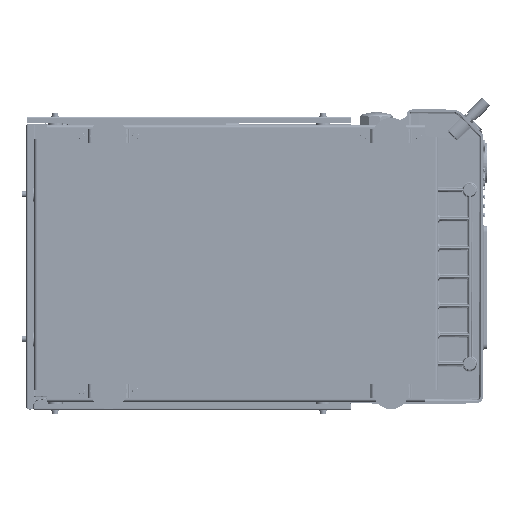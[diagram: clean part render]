
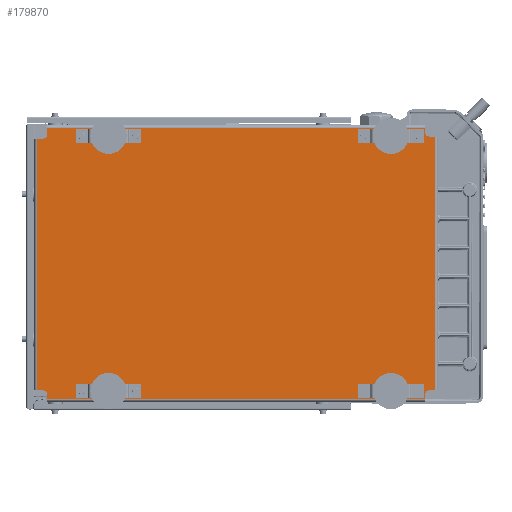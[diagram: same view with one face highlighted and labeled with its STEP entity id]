
A CAD part, front view. The second image highlights one B-rep face of the part: STEP entity #179870.
In plain terms, the highlighted planar face has unit normal (0, -1, 0).
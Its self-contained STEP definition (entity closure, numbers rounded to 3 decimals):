
#175242=DIRECTION('',(0.,0.,1.));
#175243=VECTOR('',#175242,14.);
#175244=CARTESIAN_POINT('',(343.,-70.,427.5));
#175245=LINE('',#175244,#175243);
#175304=DIRECTION('',(0.,0.,1.));
#175305=VECTOR('',#175304,14.);
#175306=CARTESIAN_POINT('',(343.,-70.,-307.5));
#175307=LINE('',#175306,#175305);
#175382=DIRECTION('',(0.,0.,1.));
#175383=VECTOR('',#175382,14.);
#175384=CARTESIAN_POINT('',(-702.,-70.,-307.5));
#175385=LINE('',#175384,#175383);
#175444=DIRECTION('',(0.,0.,1.));
#175445=VECTOR('',#175444,20.);
#175446=CARTESIAN_POINT('',(-702.,-70.,421.5));
#175447=LINE('',#175446,#175445);
#175517=DIRECTION('',(-1.,0.,0.));
#175518=VECTOR('',#175517,1045.);
#175519=CARTESIAN_POINT('',(343.,-70.,-307.5));
#175520=LINE('',#175519,#175518);
#175521=DIRECTION('',(0.,0.,1.));
#175522=VECTOR('',#175521,695.);
#175523=CARTESIAN_POINT('',(-729.,-70.,-283.5));
#175524=LINE('',#175523,#175522);
#175525=DIRECTION('',(-1.,0.,0.));
#175526=VECTOR('',#175525,1045.);
#175527=CARTESIAN_POINT('',(343.,-70.,441.5));
#175528=LINE('',#175527,#175526);
#175672=DIRECTION('',(1.,0.,0.));
#175673=VECTOR('',#175672,17.);
#175674=CARTESIAN_POINT('',(-729.,-70.,-283.5));
#175675=LINE('',#175674,#175673);
#175714=DIRECTION('',(1.,0.,0.));
#175715=VECTOR('',#175714,17.);
#175716=CARTESIAN_POINT('',(-729.,-70.,411.5));
#175717=LINE('',#175716,#175715);
#175796=DIRECTION('',(1.,0.,0.));
#175797=VECTOR('',#175796,17.);
#175798=CARTESIAN_POINT('',(353.,-70.,-283.5));
#175799=LINE('',#175798,#175797);
#175822=DIRECTION('',(1.,0.,0.));
#175823=VECTOR('',#175822,17.);
#175824=CARTESIAN_POINT('',(353.,-70.,417.5));
#175825=LINE('',#175824,#175823);
#175843=DIRECTION('',(0.,0.,1.));
#175844=VECTOR('',#175843,701.);
#175845=CARTESIAN_POINT('',(370.,-70.,-283.5));
#175846=LINE('',#175845,#175844);
#175891=CARTESIAN_POINT('',(-712.,-70.,421.5));
#175892=DIRECTION('',(0.,1.,0.));
#175893=DIRECTION('',(1.,0.,0.));
#175894=AXIS2_PLACEMENT_3D('',#175891,#175892,#175893);
#175906=CARTESIAN_POINT('',(-712.,-70.,-293.5));
#175907=DIRECTION('',(0.,1.,0.));
#175908=DIRECTION('',(0.,0.,1.));
#175909=AXIS2_PLACEMENT_3D('',#175906,#175907,#175908);
#175911=CARTESIAN_POINT('',(353.,-70.,-293.5));
#175912=DIRECTION('',(0.,1.,0.));
#175913=DIRECTION('',(-1.,0.,0.));
#175914=AXIS2_PLACEMENT_3D('',#175911,#175912,#175913);
#175926=CARTESIAN_POINT('',(353.,-70.,427.5));
#175927=DIRECTION('',(0.,1.,0.));
#175928=DIRECTION('',(0.,0.,-1.));
#175929=AXIS2_PLACEMENT_3D('',#175926,#175927,#175928);
#178693=CARTESIAN_POINT('',(343.,-70.,-307.5));
#178694=VERTEX_POINT('',#178693);
#178695=CARTESIAN_POINT('',(343.,-70.,441.5));
#178697=VERTEX_POINT('',#178695);
#178741=CARTESIAN_POINT('',(-702.,-70.,-307.5));
#178742=VERTEX_POINT('',#178741);
#178743=CARTESIAN_POINT('',(-702.,-70.,441.5));
#178745=VERTEX_POINT('',#178743);
#178780=CARTESIAN_POINT('',(-729.,-70.,-283.5));
#178782=VERTEX_POINT('',#178780);
#178788=CARTESIAN_POINT('',(-729.,-70.,411.5));
#178790=VERTEX_POINT('',#178788);
#178795=CARTESIAN_POINT('',(370.,-70.,-283.5));
#178797=VERTEX_POINT('',#178795);
#178803=CARTESIAN_POINT('',(370.,-70.,417.5));
#178805=VERTEX_POINT('',#178803);
#178812=CARTESIAN_POINT('',(343.,-70.,427.5));
#178814=VERTEX_POINT('',#178812);
#178816=CARTESIAN_POINT('',(353.,-70.,417.5));
#178818=VERTEX_POINT('',#178816);
#178819=CARTESIAN_POINT('',(343.,-70.,-293.5));
#178821=VERTEX_POINT('',#178819);
#178823=CARTESIAN_POINT('',(353.,-70.,-283.5));
#178825=VERTEX_POINT('',#178823);
#178828=CARTESIAN_POINT('',(-702.,-70.,-293.5));
#178830=VERTEX_POINT('',#178828);
#178832=CARTESIAN_POINT('',(-712.,-70.,-283.5));
#178834=VERTEX_POINT('',#178832);
#178835=CARTESIAN_POINT('',(-702.,-70.,421.5));
#178837=VERTEX_POINT('',#178835);
#178839=CARTESIAN_POINT('',(-712.,-70.,411.5));
#178841=VERTEX_POINT('',#178839);
#179836=CARTESIAN_POINT('',(343.,-70.,-307.5));
#179837=DIRECTION('',(0.,-1.,0.));
#179838=DIRECTION('',(0.,0.,1.));
#179839=AXIS2_PLACEMENT_3D('',#179836,#179837,#179838);
#179840=PLANE('',#179839);
#179842=ORIENTED_EDGE('',*,*,#179841,.F.);
#179844=ORIENTED_EDGE('',*,*,#179843,.F.);
#179845=ORIENTED_EDGE('',*,*,#179589,.F.);
#179846=ORIENTED_EDGE('',*,*,#179824,.T.);
#179847=ORIENTED_EDGE('',*,*,#179640,.T.);
#179849=ORIENTED_EDGE('',*,*,#179848,.F.);
#179851=ORIENTED_EDGE('',*,*,#179850,.F.);
#179853=ORIENTED_EDGE('',*,*,#179852,.T.);
#179855=ORIENTED_EDGE('',*,*,#179854,.T.);
#179857=ORIENTED_EDGE('',*,*,#179856,.F.);
#179858=ORIENTED_EDGE('',*,*,#179683,.T.);
#179860=ORIENTED_EDGE('',*,*,#179859,.F.);
#179861=ORIENTED_EDGE('',*,*,#179546,.F.);
#179863=ORIENTED_EDGE('',*,*,#179862,.F.);
#179865=ORIENTED_EDGE('',*,*,#179864,.T.);
#179867=ORIENTED_EDGE('',*,*,#179866,.F.);
#179868=EDGE_LOOP('',(#179842,#179844,#179845,#179846,#179847,#179849,#179851,
#179853,#179855,#179857,#179858,#179860,#179861,#179863,#179865,#179867));
#179869=FACE_OUTER_BOUND('',#179868,.F.);
#175895=CIRCLE('',#175894,10.);
#175910=CIRCLE('',#175909,10.);
#175915=CIRCLE('',#175914,10.);
#175930=CIRCLE('',#175929,10.);
#179546=EDGE_CURVE('',#178814,#178697,#175245,.T.);
#179589=EDGE_CURVE('',#178694,#178821,#175307,.T.);
#179640=EDGE_CURVE('',#178742,#178830,#175385,.T.);
#179683=EDGE_CURVE('',#178837,#178745,#175447,.T.);
#179824=EDGE_CURVE('',#178694,#178742,#175520,.T.);
#179841=EDGE_CURVE('',#178825,#178797,#175799,.T.);
#179843=EDGE_CURVE('',#178821,#178825,#175915,.T.);
#179848=EDGE_CURVE('',#178834,#178830,#175910,.T.);
#179850=EDGE_CURVE('',#178782,#178834,#175675,.T.);
#179852=EDGE_CURVE('',#178782,#178790,#175524,.T.);
#179854=EDGE_CURVE('',#178790,#178841,#175717,.T.);
#179856=EDGE_CURVE('',#178837,#178841,#175895,.T.);
#179859=EDGE_CURVE('',#178697,#178745,#175528,.T.);
#179862=EDGE_CURVE('',#178818,#178814,#175930,.T.);
#179864=EDGE_CURVE('',#178818,#178805,#175825,.T.);
#179866=EDGE_CURVE('',#178797,#178805,#175846,.T.);
#179870=ADVANCED_FACE('',(#179869),#179840,.T.);
